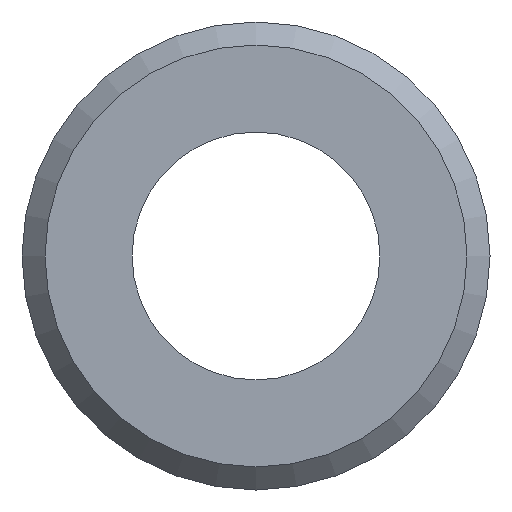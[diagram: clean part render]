
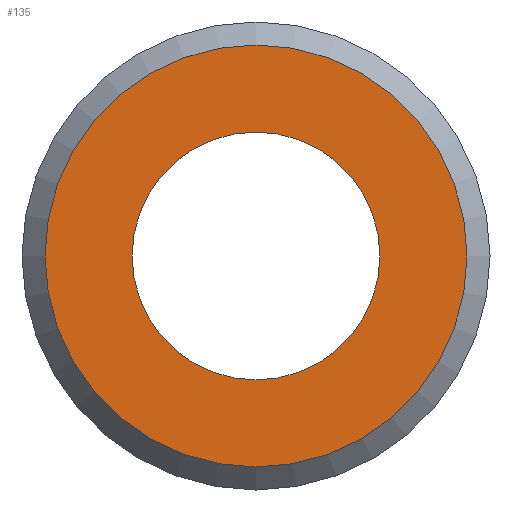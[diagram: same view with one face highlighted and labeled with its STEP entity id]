
A CAD part, left-side view. The second image highlights one B-rep face of the part: STEP entity #135.
In plain terms, the highlighted planar face has unit normal (-1, 0, 0).
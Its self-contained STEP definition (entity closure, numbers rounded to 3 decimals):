
#73=CARTESIAN_POINT('',(0.,11.921,0.));
#74=VERTEX_POINT('',#73);
#75=CARTESIAN_POINT('',(0.,0.0,0.0));
#76=DIRECTION('',(1.0,0.0,0.0));
#77=DIRECTION('',(0.0,-1.0,0.0));
#78=AXIS2_PLACEMENT_3D('',#75,#76,#77);
#79=CIRCLE('',#78,11.921);
#80=EDGE_CURVE('',#74,#74,#79,.T.);
#116=CARTESIAN_POINT('',(0.,10.11,0.0));
#117=DIRECTION('',(-1.0,0.0,0.0));
#118=DIRECTION('',(0.0,0.0,1.0));
#119=AXIS2_PLACEMENT_3D('',#116,#117,#118);
#120=PLANE('',#119);
#121=ORIENTED_EDGE('',*,*,#80,.F.);
#122=EDGE_LOOP('',(#121));
#123=FACE_OUTER_BOUND('',#122,.T.);
#124=CARTESIAN_POINT('',(0.,7.0,0.0));
#125=VERTEX_POINT('',#124);
#126=CARTESIAN_POINT('',(0.,0.0,0.0));
#127=DIRECTION('',(1.0,0.0,0.0));
#128=DIRECTION('',(0.0,1.0,0.0));
#129=AXIS2_PLACEMENT_3D('',#126,#127,#128);
#130=CIRCLE('',#129,7.0);
#131=EDGE_CURVE('',#125,#125,#130,.T.);
#132=ORIENTED_EDGE('',*,*,#131,.T.);
#133=EDGE_LOOP('',(#132));
#134=FACE_BOUND('',#133,.T.);
#135=ADVANCED_FACE('',(#123,#134),#120,.T.);
